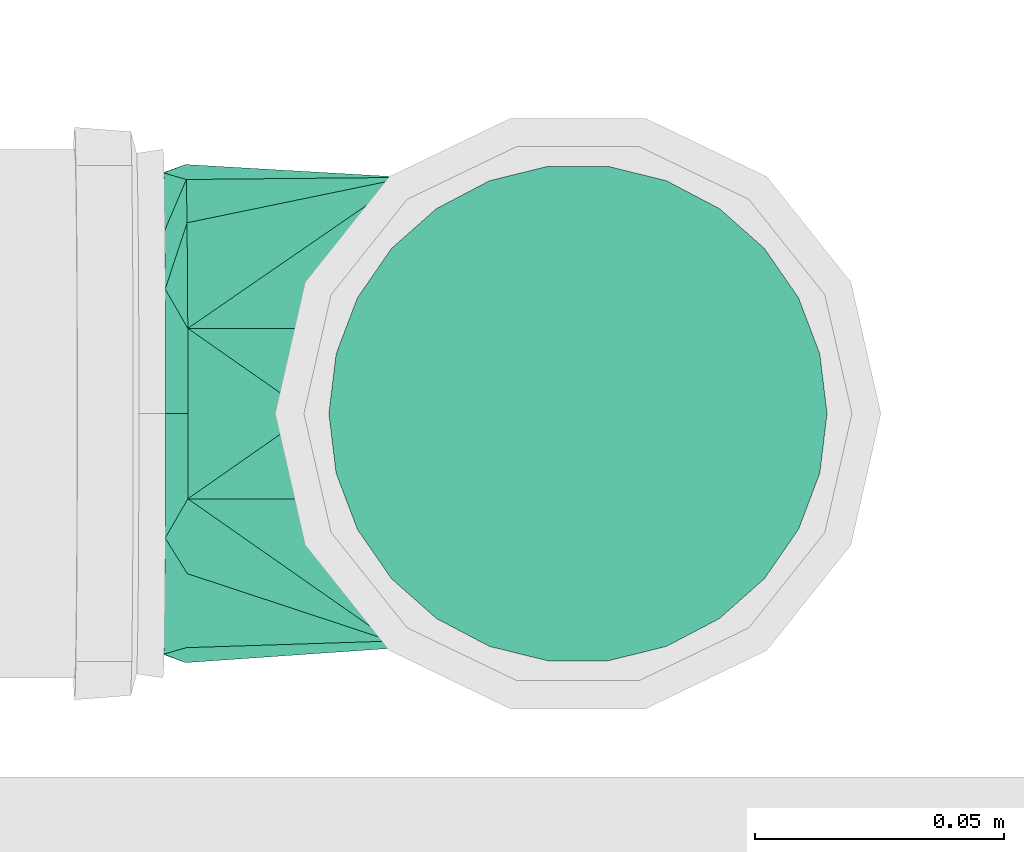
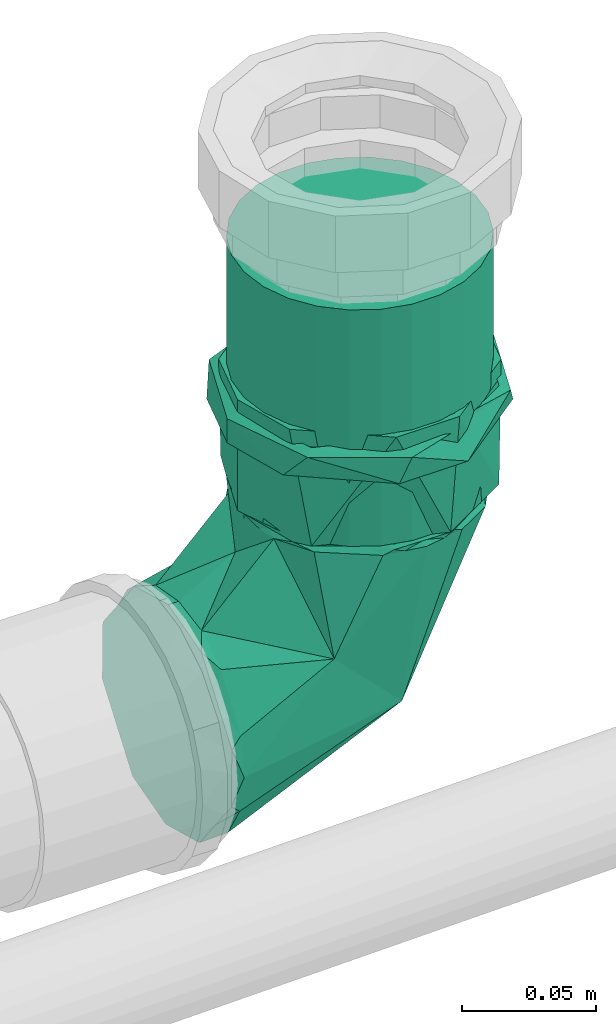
# One storey, part 243 of 589: 1 flow fitting, 1 flow segment.
"""IFC2X3 building model written with IfcOpenShell, lengths in millimetres."""

import ifcopenshell
import ifcopenshell.guid

model = None  # the IFC model being written
_history = None  # IfcOwnerHistory: only IFC2X3 demands one
_inside = {}  # id of a spatial element -> (the spatial element, [elements in it])
_under = {}  # id of a project, library or spatial element -> (it, [spatial elements below it])
_declared = {}  # id of a project -> (the project, [libraries it declares])
_typed = {}  # id of a type object -> (the type object, [elements of that type])
_made_of = {}  # id of a material, layer set ... -> (it, [elements and type objects made of it])


def new_model(schema):
    """Start an empty IFC model of exactly this schema.

    Asked for "IFC4X3", IfcOpenShell would pick the latest addendum, in which some entities
    have other attributes; the version numbers below select the first issue.
    IFC2X3 requires an IfcOwnerHistory on every rooted entity: one is made here for all.
    """
    global model, _history
    if schema == "IFC4X3":
        model = ifcopenshell.file(schema_version=(4, 3, 0, 0))
    else:
        model = ifcopenshell.file(schema=schema)
    _inside.clear()
    _under.clear()
    _declared.clear()
    _typed.clear()
    _made_of.clear()
    _history = None
    if model.schema == "IFC2X3":
        org = make("IfcOrganization", Name="unknown")
        user = make(
            "IfcPersonAndOrganization",
            ThePerson=make("IfcPerson", FamilyName="unknown"),
            TheOrganization=org,
        )
        app = make(
            "IfcApplication",
            ApplicationDeveloper=org,
            Version="unknown",
            ApplicationFullName="unknown",
            ApplicationIdentifier="unknown",
        )
        _history = make(
            "IfcOwnerHistory",
            OwningUser=user,
            OwningApplication=app,
            ChangeAction="ADDED",
            CreationDate=0,
        )
    return model


def make(cls, **values):
    """One entity of the class cls with the attributes given. An attribute that is None is left unset."""
    return model.create_entity(
        cls, **{name: value for name, value in values.items() if value is not None}
    )


def entity(cls, *values):
    """Any entity or typed value of the class cls, its attributes in the order of the schema. None: left unset."""
    e = model.create_entity(cls)
    for i, value in enumerate(values):
        if value is not None:
            e[i] = value
    return e


def rooted(cls, **values):
    """An entity with a GlobalId (a new one), such as an element, a storey or a relation."""
    return make(cls, GlobalId=ifcopenshell.guid.new(), OwnerHistory=_history, **values)


def si_unit(unit_type, name, prefix=None):
    """IfcSIUnit, for example si_unit("LENGTHUNIT", "METRE", prefix="MILLI")."""
    return make("IfcSIUnit", UnitType=unit_type, Prefix=prefix, Name=name)


def converted_unit(unit_type, name, factor, base, dimensions=None, offset=None):
    """IfcConversionBasedUnit, such as the inch: factor (a typed value) times the base unit."""
    return make(
        "IfcConversionBasedUnit"
        if offset is None
        else "IfcConversionBasedUnitWithOffset",
        ConversionOffset=offset,
        Dimensions=None
        if dimensions is None
        else entity("IfcDimensionalExponents", *dimensions),
        UnitType=unit_type,
        Name=name,
        ConversionFactor=make(
            "IfcMeasureWithUnit", ValueComponent=factor, UnitComponent=base
        ),
    )


def derived_unit(unit_type, elements):
    """IfcDerivedUnit: a product of units, each with its exponent."""
    return make(
        "IfcDerivedUnit",
        Elements=[
            make("IfcDerivedUnitElement", Unit=unit, Exponent=power)
            for unit, power in elements
        ],
        UnitType=unit_type,
    )


def assignment(units):
    """IfcUnitAssignment: the units of a project."""
    return None if units is None else make("IfcUnitAssignment", Units=units)


def point(xyz):
    """IfcCartesianPoint."""
    return None if xyz is None else make("IfcCartesianPoint", Coordinates=xyz)


def direction(xyz):
    """IfcDirection."""
    return None if xyz is None else make("IfcDirection", DirectionRatios=xyz)


def frame(location, z_axis=None, x_axis=None):
    """IfcAxis2Placement3D, a coordinate frame: its origin and axes. An axis left out is left unset."""
    return make(
        "IfcAxis2Placement3D",
        Location=point(location),
        Axis=direction(z_axis),
        RefDirection=direction(x_axis),
    )


def frame_2d(location, x_axis=None):
    """IfcAxis2Placement2D, a coordinate frame in the plane: its origin and x axis."""
    return make(
        "IfcAxis2Placement2D", Location=point(location), RefDirection=direction(x_axis)
    )


def origin():
    """The frame at (0, 0, 0) with its axes left unset."""
    return frame((0.0, 0.0, 0.0))


def place(relative_to, where):
    """IfcLocalPlacement: puts the frame where relative to a parent placement (None: the world)."""
    return make(
        "IfcLocalPlacement", PlacementRelTo=relative_to, RelativePlacement=where
    )


def context(
    kind, dimensions, precision=None, world=None, true_north=None, identifier=None
):
    """IfcGeometricRepresentationContext, for example the 3D "Model" context."""
    return make(
        "IfcGeometricRepresentationContext",
        ContextIdentifier=identifier,
        ContextType=kind,
        CoordinateSpaceDimension=dimensions,
        Precision=precision,
        WorldCoordinateSystem=world,
        TrueNorth=true_north,
    )


def subcontext(parent, identifier, kind, view, scale=None):
    """IfcGeometricRepresentationSubContext, for example "Body" below "Model"."""
    return make(
        "IfcGeometricRepresentationSubContext",
        ContextIdentifier=identifier,
        ContextType=kind,
        ParentContext=parent,
        TargetScale=scale,
        TargetView=view,
    )


def project(units=None, contexts=None):
    """IfcProject with its units and contexts."""
    return rooted(
        "IfcProject",
        Name="project",
        RepresentationContexts=contexts,
        UnitsInContext=assignment(units),
    )


def spatial(cls, under=None, at=None, **own):
    """A site, building, storey or space (cls), placed at a placement, below another one or the project."""
    s = rooted(cls, ObjectPlacement=at, **own)
    if under is not None:
        _under.setdefault(under.id(), (under, []))[1].append(s)
    return s


def profile(cls, at=None, kind="AREA", **sizes):
    """A parametric profile (cls). Its sizes go by their IFC names, for example OverallWidth=200.0."""
    return make(cls, ProfileType=kind, Position=at, **sizes)


def circle(**sizes):
    """IfcCircleProfileDef."""
    return profile("IfcCircleProfileDef", **sizes)


def extrude(swept, where, along, depth):
    """IfcExtrudedAreaSolid: the profile swept, set in the frame where, extruded along a direction by depth."""
    return make(
        "IfcExtrudedAreaSolid",
        SweptArea=swept,
        Position=where,
        ExtrudedDirection=direction(along),
        Depth=depth,
    )


def faces_of(points, faces, orient=None, outer=None):
    """IfcFace entities. A face is a list of loops; a loop is a list of indices into points, from 0.

    orient and outer hold one flag for each loop. By default every Orientation is true, the
    first loop of a face is its IfcFaceOuterBound and the others are IfcFaceBound.
    """
    made = []
    for i, loops in enumerate(faces):
        bounds = []
        for j, loop in enumerate(loops):
            is_outer = j == 0 if outer is None else outer[i][j]
            bounds.append(
                make(
                    "IfcFaceOuterBound" if is_outer else "IfcFaceBound",
                    Bound=make("IfcPolyLoop", Polygon=[points[k] for k in loop]),
                    Orientation=True if orient is None else orient[i][j],
                )
            )
        made.append(make("IfcFace", Bounds=bounds))
    return made


def faceted_brep(points, faces, orient=None, outer=None, voids=None):
    """IfcFacetedBrep: a solid bounded by flat faces; with voids (closed shells), ...WithVoids."""
    shared = [point(p) for p in points]
    hull = make("IfcClosedShell", CfsFaces=faces_of(shared, faces, orient, outer))
    if voids is None:
        return make("IfcFacetedBrep", Outer=hull)
    return make(
        "IfcFacetedBrepWithVoids",
        Outer=hull,
        Voids=[
            make(cls, CfsFaces=faces_of(shared, fs, o, b)) for cls, fs, o, b in voids
        ],
    )


def shape(context_of_items, identifier, shape_type, items):
    """IfcShapeRepresentation: the items that make up one representation, for example the "Body"."""
    return make(
        "IfcShapeRepresentation",
        ContextOfItems=context_of_items,
        RepresentationIdentifier=identifier,
        RepresentationType=shape_type,
        Items=items,
    )


def source(mapping_origin, context_of_items, identifier, shape_type, items):
    """IfcRepresentationMap: a shape defined once, which mapped items show again and again."""
    return make(
        "IfcRepresentationMap",
        MappingOrigin=mapping_origin,
        MappedRepresentation=shape(context_of_items, identifier, shape_type, items),
    )


def transform(
    local_origin,
    x_axis=None,
    y_axis=None,
    z_axis=None,
    scale=None,
    scale2=None,
    scale3=None,
    uniform=True,
):
    """IfcCartesianTransformationOperator3D, or its non-uniform kind. x_axis, y_axis, z_axis: its Axis1, 2, 3."""
    if uniform:
        return make(
            "IfcCartesianTransformationOperator3D",
            Axis1=direction(x_axis),
            Axis2=direction(y_axis),
            LocalOrigin=point(local_origin),
            Scale=scale,
            Axis3=direction(z_axis),
        )
    return make(
        "IfcCartesianTransformationOperator3DnonUniform",
        Axis1=direction(x_axis),
        Axis2=direction(y_axis),
        LocalOrigin=point(local_origin),
        Scale=scale,
        Axis3=direction(z_axis),
        Scale2=scale2,
        Scale3=scale3,
    )


def mapped(mapping_source, mapping_target):
    """IfcMappedItem: shows the shape of a source again, moved by a transform."""
    return make(
        "IfcMappedItem", MappingSource=mapping_source, MappingTarget=mapping_target
    )


def material(Name=None, Category=None):
    """IfcMaterial."""
    return make("IfcMaterial", Name=Name, Category=Category)


def made_of(thing, what):
    """Note that an element or type object is made of a material, layer set ...; save() writes the relation."""
    if what is not None:
        _made_of.setdefault(what.id(), (what, []))[1].append(thing)
    return thing


def type_object(cls, material=None, **own):
    """A type object (cls), such as IfcWallType, which elements share."""
    return made_of(rooted(cls, **own), material)


def type_shapes(of_type, sources):
    """Give a type object the sources (RepresentationMaps) that its elements show as mapped items."""
    of_type.RepresentationMaps = sources


def element(
    cls,
    number,
    at=None,
    inside=None,
    cuts=None,
    type_object=None,
    material=None,
    context=None,
    identifier="Body",
    shape_type=None,
    held_by="IfcProductDefinitionShape",
    body=None,
    shapes=None,
    **own,
):
    """One element of the class cls, such as IfcWall. Its Tag is "e" and its number.

    at: its placement. inside: the storey or other place that contains it. cuts: it is an
    opening in that element (IfcRelVoidsElement). A single representation is given by context,
    identifier, shape_type and body (its items); several are given by shapes. held_by: the class
    of the entity that holds the representations. save() writes the other relations.
    """
    e = rooted(cls, Tag="e%d" % number, ObjectPlacement=at, **own)
    if body is not None:
        shapes = [shape(context, identifier, shape_type, body)]
    if shapes is not None:
        e.Representation = make(held_by, Representations=shapes)
    if inside is not None:
        _inside.setdefault(inside.id(), (inside, []))[1].append(e)
    if cuts is not None:
        rooted(
            "IfcRelVoidsElement", RelatingBuildingElement=cuts, RelatedOpeningElement=e
        )
    if type_object is not None:
        _typed.setdefault(type_object.id(), (type_object, []))[1].append(e)
    return made_of(e, material)


def aggregate(whole, parts):
    """IfcRelAggregates: a whole, such as a stair, and the parts it consists of."""
    return rooted("IfcRelAggregates", RelatingObject=whole, RelatedObjects=parts)


def save(model, path):
    """Write the relations noted so far, then the file.

    IfcRelAggregates (storeys below a building ...), IfcRelContainedInSpatialStructure (elements
    in a storey), IfcRelDefinesByType, IfcRelAssociatesMaterial and IfcRelDeclares: one each for
    every whole, place, type object, material and project.
    """
    for whole, parts in _under.values():
        aggregate(whole, parts)
    for where, things in _inside.values():
        rooted(
            "IfcRelContainedInSpatialStructure",
            RelatedElements=things,
            RelatingStructure=where,
        )
    for kind, things in _typed.values():
        rooted("IfcRelDefinesByType", RelatedObjects=things, RelatingType=kind)
    for what, things in _made_of.values():
        rooted("IfcRelAssociatesMaterial", RelatedObjects=things, RelatingMaterial=what)
    for by, libraries in _declared.values():
        rooted("IfcRelDeclares", RelatingContext=by, RelatedDefinitions=libraries)
    model.write(path)


model = new_model("IFC2X3")

# Units and contexts
model_context = context("Model", 3, precision=0.01, world=origin(), true_north=direction((6.123031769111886e-17, 1.0)))
body_context = subcontext(model_context, "Body", "Model", "MODEL_VIEW")
ifc_project = project(units=[si_unit("LENGTHUNIT", "METRE", prefix="MILLI"), si_unit("AREAUNIT", "SQUARE_METRE"), si_unit("VOLUMEUNIT", "CUBIC_METRE"), converted_unit("PLANEANGLEUNIT", "DEGREE", entity("IfcRatioMeasure", 0.017453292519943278), si_unit("PLANEANGLEUNIT", "RADIAN"), dimensions=[0, 0, 0, 0, 0, 0, 0]), si_unit("MASSUNIT", "GRAM", prefix="KILO"), derived_unit("MASSDENSITYUNIT", [(si_unit("MASSUNIT", "GRAM", prefix="KILO"), 1), (si_unit("LENGTHUNIT", "METRE"), -3)]), derived_unit("IONCONCENTRATIONUNIT", [(si_unit("MASSUNIT", "GRAM", prefix="KILO"), 1), (si_unit("LENGTHUNIT", "METRE"), -3)]), derived_unit("MOMENTOFINERTIAUNIT", [(si_unit("LENGTHUNIT", "METRE"), 4)]), si_unit("TIMEUNIT", "SECOND"), si_unit("FREQUENCYUNIT", "HERTZ"), si_unit("THERMODYNAMICTEMPERATUREUNIT", "DEGREE_CELSIUS"), derived_unit("THERMALTRANSMITTANCEUNIT", [(si_unit("MASSUNIT", "GRAM", prefix="KILO"), 1), (si_unit("THERMODYNAMICTEMPERATUREUNIT", "KELVIN"), -1), (si_unit("TIMEUNIT", "SECOND"), -3)]), derived_unit("THERMALCONDUCTANCEUNIT", [(si_unit("MASSUNIT", "GRAM", prefix="KILO"), 1), (si_unit("THERMODYNAMICTEMPERATUREUNIT", "KELVIN"), -1), (si_unit("TIMEUNIT", "SECOND"), -3), (si_unit("LENGTHUNIT", "METRE"), 1)]), derived_unit("VOLUMETRICFLOWRATEUNIT", [(si_unit("LENGTHUNIT", "METRE"), 3), (si_unit("TIMEUNIT", "SECOND"), -1)]), derived_unit("MASSFLOWRATEUNIT", [(si_unit("MASSUNIT", "GRAM", prefix="KILO"), 1), (si_unit("TIMEUNIT", "SECOND"), -1)]), derived_unit("ROTATIONALFREQUENCYUNIT", [(si_unit("TIMEUNIT", "SECOND"), -1)]), si_unit("ELECTRICCURRENTUNIT", "AMPERE"), si_unit("ELECTRICVOLTAGEUNIT", "VOLT"), si_unit("POWERUNIT", "WATT"), si_unit("FORCEUNIT", "NEWTON", prefix="KILO"), si_unit("ILLUMINANCEUNIT", "LUX"), si_unit("LUMINOUSFLUXUNIT", "LUMEN"), si_unit("LUMINOUSINTENSITYUNIT", "CANDELA"), derived_unit("USERDEFINED", [(si_unit("MASSUNIT", "GRAM", prefix="KILO"), -1), (si_unit("LENGTHUNIT", "METRE"), -2), (si_unit("TIMEUNIT", "SECOND"), 3), (si_unit("LUMINOUSFLUXUNIT", "LUMEN"), 1)]), derived_unit("USERDEFINED", [(si_unit("MASSUNIT", "GRAM", prefix="KILO"), 1), (si_unit("TIMEUNIT", "SECOND"), -3), (si_unit("LENGTHUNIT", "METRE"), 3), (si_unit("ELECTRICCURRENTUNIT", "AMPERE"), -2)]), derived_unit("SOUNDPOWERUNIT", [(si_unit("MASSUNIT", "GRAM", prefix="KILO"), 1), (si_unit("TIMEUNIT", "SECOND"), -3), (si_unit("LENGTHUNIT", "METRE"), 2)]), derived_unit("SOUNDPRESSUREUNIT", [(si_unit("MASSUNIT", "GRAM", prefix="KILO"), 1), (si_unit("LENGTHUNIT", "METRE"), -1), (si_unit("TIMEUNIT", "SECOND"), -2)]), derived_unit("LINEARVELOCITYUNIT", [(si_unit("LENGTHUNIT", "METRE"), 1), (si_unit("TIMEUNIT", "SECOND"), -1)]), si_unit("PRESSUREUNIT", "PASCAL"), derived_unit("USERDEFINED", [(si_unit("MASSUNIT", "GRAM", prefix="KILO"), 1), (si_unit("LENGTHUNIT", "METRE"), -2), (si_unit("TIMEUNIT", "SECOND"), -2)]), derived_unit("LINEARFORCEUNIT", [(si_unit("MASSUNIT", "GRAM", prefix="KILO"), 1), (si_unit("TIMEUNIT", "SECOND"), -2)]), derived_unit("PLANARFORCEUNIT", [(si_unit("MASSUNIT", "GRAM", prefix="KILO"), 1), (si_unit("LENGTHUNIT", "METRE"), -1), (si_unit("TIMEUNIT", "SECOND"), -2)]), derived_unit("SPECIFICHEATCAPACITYUNIT", [(si_unit("THERMODYNAMICTEMPERATUREUNIT", "KELVIN"), -1), (si_unit("LENGTHUNIT", "METRE"), 2), (si_unit("TIMEUNIT", "SECOND"), -2)]), derived_unit("HEATINGVALUEUNIT", [(si_unit("LENGTHUNIT", "METRE"), 2), (si_unit("TIMEUNIT", "SECOND"), -2)]), derived_unit("VAPORPERMEABILITYUNIT", [(si_unit("LENGTHUNIT", "METRE"), -1), (si_unit("TIMEUNIT", "SECOND"), 1)]), derived_unit("DYNAMICVISCOSITYUNIT", [(si_unit("MASSUNIT", "GRAM", prefix="KILO"), 1), (si_unit("TIMEUNIT", "SECOND"), -1), (si_unit("LENGTHUNIT", "METRE"), -1)]), derived_unit("THERMALEXPANSIONCOEFFICIENTUNIT", [(si_unit("THERMODYNAMICTEMPERATUREUNIT", "KELVIN"), -1)]), derived_unit("MODULUSOFELASTICITYUNIT", [(si_unit("MASSUNIT", "GRAM", prefix="KILO"), 1), (si_unit("LENGTHUNIT", "METRE"), -1), (si_unit("TIMEUNIT", "SECOND"), -2)]), derived_unit("ISOTHERMALMOISTURECAPACITYUNIT", [(si_unit("LENGTHUNIT", "METRE"), 3), (si_unit("MASSUNIT", "GRAM", prefix="KILO"), -1)]), derived_unit("MOISTUREDIFFUSIVITYUNIT", [(si_unit("TIMEUNIT", "SECOND"), -1), (si_unit("LENGTHUNIT", "METRE"), 2)])], contexts=[model_context])

# Site, building, storey
site_placement = place(None, origin())
site = spatial("IfcSite", under=ifc_project, at=site_placement, Name="Default", CompositionType="ELEMENT")
building_placement = place(site_placement, origin())
building = spatial("IfcBuilding", under=site, at=building_placement, CompositionType="ELEMENT")
storey_placement = place(building_placement, frame((0.0, 0.0, 100.0)))
storey = spatial("IfcBuildingStorey", under=building, at=storey_placement, Name="TÉRREO", CompositionType="ELEMENT", Elevation=100.0)

# Flow segment
pipe_segment_type = type_object("IfcPipeSegmentType", Name="Tipos de tubos:PVC Esgoto Série Normal", PredefinedType="NOTDEFINED")
flow_segment_placement = place(storey_placement, origin())
element("IfcFlowSegment", 1, at=flow_segment_placement, inside=storey, type_object=pipe_segment_type, Name="Tipos de tubos:PVC Esgoto Série Normal", ObjectType="Tipos de tubos:PVC Esgoto Série Normal", context=body_context, shape_type="SweptSolid", body=[
    extrude(circle(Radius=50.0, at=frame_2d((3.383959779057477e-14, -5.414335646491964e-13), x_axis=(1.0, 0.0))), frame((-87.78535366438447, 3453.5703177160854, -157.99341101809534)), (0.0, 0.0, 1.0), 107.9934110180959),
])

# Flow fitting
ifc_material = material(Name="PVC Branco")
pipe_fitting_type = type_object("IfcPipeFittingType", Name="PVC Esgoto_Curva 90° Curta:a. Série Normal", PredefinedType="NOTDEFINED", material=ifc_material)
shared_shape = source(origin(), body_context, "Body", "Brep", [
    faceted_brep([(-13.77310261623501, 83.150332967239, 48.29629131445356), (12.107507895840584, 83.40913907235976, 48.296291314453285), (27.28690791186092, 83.56093307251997, 36.64814565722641), (42.466307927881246, 83.71272707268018, 25.0), (49.16470282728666, 83.77971102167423, 0.0), (42.46630792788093, 83.71272707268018, -25.0), (27.286907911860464, 83.56093307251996, -36.64814565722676), (12.107507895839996, 83.40913907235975, -48.29629131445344), (-13.773102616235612, 83.150332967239, -48.2962913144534), (-28.95250263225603, 82.99853896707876, -36.64814565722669), (-44.131902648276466, 82.84674496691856, -25.0), (-50.83029754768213, 82.7797610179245, 0.0), (-44.131902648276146, 82.84674496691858, 25.0), (-28.952502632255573, 82.99853896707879, 36.64814565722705), (46.19447148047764, 79.24978371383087, 17.1010370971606), (16.31224781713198, 78.9509614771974, 46.9846691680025), (-17.887847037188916, 78.60896052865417, 46.98466916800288), (49.209700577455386, 79.27993600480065, 0.0), (37.5124666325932, 79.16296366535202, 32.139429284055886), (-32.92551224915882, 78.45858387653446, 38.30227334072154), (-0.7877996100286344, 78.77996100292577, 50.0), (-47.77007070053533, 78.31013829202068, 17.10103709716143), (-50.78529979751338, 78.2799860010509, 0.0), (-47.77007070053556, 78.31013829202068, -17.10103709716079), (-17.88784703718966, 78.60896052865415, -46.98466916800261), (16.312247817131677, 78.9509614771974, -46.98466916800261), (-39.08806585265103, 78.39695834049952, -32.1394292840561), (31.34991302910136, 79.1013381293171, -38.302273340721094), (-0.7877996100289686, 78.77996100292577, -50.0), (46.194471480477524, 79.24978371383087, -17.10103709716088), (-7.975140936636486, 7.895786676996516, 45.073651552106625), (-78.78389990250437, -17.100902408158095, 46.98466916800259), (-78.7838999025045, -27.701541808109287, 39.562049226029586), (-78.78389990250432, -38.302181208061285, 32.139429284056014), (-14.414764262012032, -32.63731005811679, 0.0), (-78.78389990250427, -46.984620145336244, 17.101037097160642), (-78.78389990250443, -48.49231007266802, 8.55051854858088), (-78.78389990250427, -50.0, 0.0), (-78.78389990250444, -42.64340067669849, 24.620233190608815), (-78.78389990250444, 0.0, 50.0), (-78.78389990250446, -8.550451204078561, 48.492334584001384), (32.49153787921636, 14.740400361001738, 0.0), (-34.6369786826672, 34.29234046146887, 47.412359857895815), (-78.78389990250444, 17.100902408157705, 46.98466916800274), (-78.78389990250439, 8.550451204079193, 48.49233458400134), (-78.78389990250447, 32.13931948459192, 38.302273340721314), (-78.78389990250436, 24.620110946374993, 42.64347125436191), (-78.78389990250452, 46.98462014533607, 17.101037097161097), (-78.78389990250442, 39.56196981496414, 27.701655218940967), (-64.70315148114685, 53.79808842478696, 0.0), (-78.78389990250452, 50.0, 0.0), (-78.78389990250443, 48.492310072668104, 8.550518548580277), (-37.82579928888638, 37.449427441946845, -45.66519222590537), (-78.78389990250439, 0.0, -50.0), (-78.78389990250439, 8.55045120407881, -48.49233458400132), (-78.78389990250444, 17.10090240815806, -46.984669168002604), (-7.975138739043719, 7.895784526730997, -45.07365007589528), (-78.78389990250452, 46.98462014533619, -17.101037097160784), (-78.78389990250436, 27.701541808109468, -39.562049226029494), (-78.7838999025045, 38.30218120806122, -32.139429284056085), (-78.78389990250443, -48.492310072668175, -8.550518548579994), (-78.78389990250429, -46.984620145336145, -17.1010370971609), (-78.78389990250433, -32.13931948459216, -38.302273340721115), (-78.7838999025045, -24.620110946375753, -42.6434712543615), (-78.78389990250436, -17.100902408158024, -46.98466916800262), (-78.78389990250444, -39.56196981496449, -27.70165521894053), (-78.78389990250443, 48.49231007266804, -8.550518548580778), (-78.78389990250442, 42.64340067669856, -24.620233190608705), (-78.78389990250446, -8.550451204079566, -48.49233458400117), (-80.78389990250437, 50.0, 0.0), (-80.78389990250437, 46.65063509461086, -12.500000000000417), (-80.78389990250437, 43.30127018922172, -25.0), (-80.78389990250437, 35.711190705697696, -30.82407282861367), (-80.78389990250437, 28.121111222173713, -36.64814565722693), (-80.78389990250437, 20.53103173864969, -42.47221848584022), (-80.78389990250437, 12.940952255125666, -48.29629131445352), (-80.78389990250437, 0.0, -48.29629131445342), (-80.78389990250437, -12.940952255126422, -48.29629131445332), (-80.78389990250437, -20.531031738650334, -42.47221848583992), (-80.78389990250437, -28.121111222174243, -36.64814565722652), (-80.78389990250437, -35.7111907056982, -30.824072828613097), (-80.78389990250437, -43.30127018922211, -25.0), (-80.78389990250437, -46.650635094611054, -12.499999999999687), (-80.78389990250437, -50.0, 0.0), (-80.78389990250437, -46.65063509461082, 12.500000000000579), (-80.78389990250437, -43.30127018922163, 25.0), (-80.78389990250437, -35.71119070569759, 30.82407282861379), (-80.78389990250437, -28.12111122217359, 36.648145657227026), (-80.78389990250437, -20.531031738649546, 42.47221848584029), (-80.78389990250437, -12.940952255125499, 48.29629131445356), (-80.78389990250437, 0.0, 48.29629131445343), (-80.78389990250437, 12.940952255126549, 48.296291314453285), (-80.78389990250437, 20.531031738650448, 42.47221848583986), (-80.78389990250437, 28.121111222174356, 36.648145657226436), (-80.78389990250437, 35.711190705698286, 30.824072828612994), (-80.78389990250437, 43.30127018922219, 25.0), (-80.78389990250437, 46.65063509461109, 12.499999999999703)], [[[0, 1, 2, 3, 4, 5, 6, 7, 8, 9, 10, 11, 12, 13]], [[14, 4, 3]], [[1, 15, 2]], [[13, 16, 0]], [[17, 4, 14]], [[18, 14, 3]], [[2, 15, 18]], [[13, 12, 19]], [[1, 20, 15]], [[18, 3, 2]], [[12, 21, 19]], [[12, 11, 21]], [[22, 21, 11]], [[20, 0, 16]], [[16, 13, 19]], [[0, 20, 1]], [[23, 11, 10]], [[8, 24, 9]], [[6, 25, 7]], [[22, 11, 23]], [[26, 23, 10]], [[9, 24, 26]], [[6, 5, 27]], [[8, 28, 24]], [[26, 10, 9]], [[5, 29, 27]], [[5, 4, 29]], [[17, 29, 4]], [[28, 7, 25]], [[25, 6, 27]], [[7, 28, 8]], [[30, 31, 32, 33]], [[34, 35, 36, 37]], [[34, 30, 33]], [[34, 33, 38, 35]], [[30, 39, 40, 31]], [[41, 30, 34]], [[42, 43, 44, 39]], [[20, 42, 30]], [[30, 42, 39]], [[42, 45, 46, 43]], [[42, 47, 48, 45]], [[49, 50, 51, 47]], [[20, 30, 15]], [[20, 16, 42]], [[30, 18, 15]], [[14, 18, 41]], [[17, 14, 41]], [[49, 21, 22]], [[49, 47, 21]], [[47, 42, 21]], [[42, 19, 21]], [[42, 16, 19]], [[30, 41, 18]], [[52, 53, 54, 55]], [[34, 56, 41]], [[52, 24, 28]], [[52, 57, 23]], [[52, 55, 58, 59]], [[56, 53, 52]], [[34, 37, 60, 61]], [[56, 62, 63, 64]], [[62, 56, 34]], [[34, 61, 65, 62]], [[49, 57, 66, 50]], [[49, 22, 23]], [[27, 56, 25]], [[52, 59, 67, 57]], [[52, 26, 24]], [[52, 23, 26]], [[52, 28, 56]], [[56, 64, 68, 53]], [[28, 25, 56]], [[56, 27, 41]], [[29, 17, 41]], [[29, 41, 27]], [[49, 23, 57]], [[69, 70, 71, 72, 73, 74, 75, 76, 77, 78, 79, 80, 81, 82, 83, 84, 85, 86, 87, 88, 89, 90, 91, 92, 93, 94, 95, 96]], [[51, 50, 69]], [[31, 89, 88]], [[92, 43, 46]], [[46, 45, 93]], [[31, 88, 32]], [[93, 92, 46]], [[96, 95, 47]], [[94, 93, 45]], [[85, 84, 35]], [[69, 96, 51]], [[90, 44, 91]], [[89, 40, 90]], [[33, 87, 86, 85]], [[85, 35, 38, 33]], [[89, 31, 40]], [[83, 36, 84]], [[45, 48, 94]], [[40, 39, 90]], [[44, 43, 91]], [[32, 88, 87]], [[48, 47, 95]], [[87, 33, 32]], [[44, 90, 39]], [[96, 47, 51]], [[92, 91, 43]], [[48, 95, 94]], [[36, 83, 37]], [[36, 35, 84]], [[60, 37, 83]], [[55, 75, 74]], [[78, 64, 63]], [[63, 62, 79]], [[55, 74, 58]], [[79, 78, 63]], [[82, 81, 61]], [[80, 79, 62]], [[71, 70, 57]], [[83, 82, 60]], [[76, 68, 77]], [[75, 54, 76]], [[59, 73, 72, 71]], [[71, 57, 67, 59]], [[75, 55, 54]], [[69, 66, 70]], [[62, 65, 80]], [[54, 53, 76]], [[68, 64, 77]], [[58, 74, 73]], [[65, 61, 81]], [[73, 59, 58]], [[68, 76, 53]], [[82, 61, 60]], [[78, 77, 64]], [[65, 81, 80]], [[66, 69, 50]], [[66, 57, 70]]]),
    faceted_brep([(-115.78389990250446, 13.678586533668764, -51.04917991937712), (-115.78389990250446, -13.678586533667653, -51.04917991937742), (-115.78389990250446, -14.83033128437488, -55.3475498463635), (-115.78389990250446, 14.830331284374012, -55.347549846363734), (-115.78389990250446, 45.76944259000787, -26.42499999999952), (-115.78389990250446, -49.62325563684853, -28.64999999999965), (-115.78389990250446, -45.769442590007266, -26.425000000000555), (-115.78389990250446, -52.85000000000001, 0.0), (-115.78389990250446, -57.300000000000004, 0.0), (-115.78389990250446, -45.76944259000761, 26.424999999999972), (-115.78389990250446, -49.62325563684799, 28.6500000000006), (-115.78389990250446, -13.67858653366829, 51.04917991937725), (-115.78389990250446, -14.830331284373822, 55.34754984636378), (-115.78389990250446, 13.678586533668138, 51.049179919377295), (-115.78389990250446, 14.830331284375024, 55.34754984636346), (-115.78389990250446, 45.76944259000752, 26.42500000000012), (-115.78389990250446, 49.62325563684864, 28.64999999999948), (-115.78389990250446, 57.300000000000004, 0.0), (-115.78389990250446, 52.85000000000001, 0.0), (-115.78389990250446, 49.62325563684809, -28.65000000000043), (-126.78389990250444, 57.300000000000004, 0.0), (-126.78389990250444, 50.59641416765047, 18.416769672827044), (-126.78389990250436, 43.89282833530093, 36.833539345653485), (-126.78389990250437, 16.96848634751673, 46.63099896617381), (-126.78389990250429, -9.955855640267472, 56.42845858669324), (-126.78389990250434, -26.927757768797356, 46.62692777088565), (-126.78389990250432, -43.89965989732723, 36.82539695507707), (-126.78389990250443, -51.65442122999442, 15.514582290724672), (-126.78389990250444, -57.300000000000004, 0.0), (-126.78389990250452, -51.654421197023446, -15.514582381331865), (-126.78389990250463, -43.89965989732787, -36.825396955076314), (-126.78389990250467, -16.97713572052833, -46.627850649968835), (-126.7838999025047, 9.945388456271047, -56.43030434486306), (-126.78389990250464, 26.91910839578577, -46.63192184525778), (-126.7838999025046, 43.89282833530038, -36.83353934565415), (-126.78389990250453, 50.59641416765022, -18.416769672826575), (-126.78389990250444, 52.85000000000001, 0.0), (-128.2838999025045, 52.85000000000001, 0.0), (-126.78389990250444, 51.07986064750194, -6.606250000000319), (-126.78389990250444, 49.309721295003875, -13.212500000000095), (-126.78389990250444, 47.53958194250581, -19.818749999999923), (-126.78389990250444, 45.769442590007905, -26.42499999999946), (-126.78389990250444, 37.74672857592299, -32.581044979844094), (-126.78389990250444, 29.72401456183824, -38.73708995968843), (-126.78389990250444, 21.70130054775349, -44.89313493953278), (-126.78389990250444, 13.678586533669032, -51.049179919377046), (-126.78389990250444, 6.83929326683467, -51.0491799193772), (-126.78389990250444, 0.0, -51.04917991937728), (-126.78389990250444, -6.839293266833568, -51.049179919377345), (-126.78389990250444, -13.678586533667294, -51.049179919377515), (-126.78389990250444, -21.70130054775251, -44.89313493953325), (-126.78389990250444, -29.724014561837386, -38.73708995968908), (-126.78389990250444, -37.74672857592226, -32.581044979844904), (-126.78389990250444, -45.76944259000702, -26.425000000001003), (-126.78389990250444, -47.53958194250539, -19.818750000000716), (-126.78389990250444, -49.3097212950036, -13.212500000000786), (-126.78389990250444, -51.0798606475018, -6.606250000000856), (-128.2838999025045, -52.85000000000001, 0.0), (-126.78389990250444, -52.85000000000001, 0.0), (-126.78389990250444, -51.07986064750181, 6.606250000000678), (-126.78389990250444, -49.30972129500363, 13.212500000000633), (-126.78389990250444, -47.53958194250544, 19.81875000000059), (-126.78389990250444, -45.769442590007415, 26.425000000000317), (-126.78389990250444, -37.74672857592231, 32.58104497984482), (-126.78389990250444, -29.724014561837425, 38.73708995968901), (-126.78389990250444, -21.70130054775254, 44.893134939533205), (-126.78389990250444, -17.689943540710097, 47.9711574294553), (-126.78389990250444, -13.67858653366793, 51.049179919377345), (-126.78389990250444, -6.8392932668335, 51.04917991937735), (-126.78389990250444, 0.0, 51.04917991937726), (-126.78389990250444, 6.839293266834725, 51.04917991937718), (-126.78389990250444, 13.67858653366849, 51.049179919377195), (-126.78389990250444, 21.701300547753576, 44.893134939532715), (-126.78389990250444, 29.724014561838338, 38.73708995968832), (-126.78389990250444, 37.7467285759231, 32.58104497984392), (-126.78389990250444, 45.769442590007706, 26.424999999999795), (-126.78389990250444, 47.539581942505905, 19.818749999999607), (-126.78389990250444, 49.30972129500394, 13.212499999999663), (-126.78389990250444, 51.079860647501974, 6.606249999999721), (-128.28389990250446, -49.75936154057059, 8.49223617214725), (-128.28389990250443, -46.668723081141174, 16.984472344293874), (-128.28389990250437, -21.863819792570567, 40.74836470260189), (-128.28389990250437, -15.655944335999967, 43.00817137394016), (-128.28389990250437, -28.07169524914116, 38.488558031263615), (-128.2838999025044, 40.48487812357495, 33.9720052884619), (-128.2838999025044, 32.6575479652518, 38.490853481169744), (-128.28389990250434, 9.175557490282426, 52.04739805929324), (-128.2838999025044, 24.830217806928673, 43.00970167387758), (-128.28389990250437, 17.002887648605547, 47.528549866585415), (-128.2838999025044, -43.578084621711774, 25.476708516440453), (-128.2838999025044, -40.48744616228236, 33.96894468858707), (-128.2838999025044, -34.27957070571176, 36.22875135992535), (-128.28389990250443, 46.667439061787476, 16.986002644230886), (-128.28389990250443, 43.57615859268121, 25.479003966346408), (-128.28389990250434, 2.967682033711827, 49.78759138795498), (-127.4733463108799, 42.95894728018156, 30.783946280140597), (-128.28389990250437, -9.44806887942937, 45.26797804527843), (-128.2838999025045, 49.75871953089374, 8.49300132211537), (-128.2838999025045, 47.64176169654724, 14.30914316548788), (-128.28389990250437, -3.2401934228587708, 47.5277847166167), (-128.28389990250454, 46.667439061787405, -16.986002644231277), (-128.28389990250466, 3.2366004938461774, -47.52802952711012), (-128.28389990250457, 43.576158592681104, -25.479003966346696), (-128.2838999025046, 40.4848781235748, -33.972005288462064), (-128.2838999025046, 34.27683185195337, -36.231342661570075), (-128.28389990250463, -17.006480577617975, -47.52726437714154), (-128.28389990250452, 49.75871953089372, -8.493001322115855), (-128.28389990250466, -9.179492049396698, -52.04670427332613), (-128.28389990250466, -2.971445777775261, -49.787366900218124), (-128.28389990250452, -46.66872308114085, -16.984472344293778), (-128.28389990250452, -43.578084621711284, -25.476708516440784), (-128.2838999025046, 28.068785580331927, -38.490680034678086), (-128.28389990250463, 21.86073930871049, -40.75001740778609), (-128.28389990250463, 15.652693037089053, -43.00935478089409), (-128.28389990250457, -32.66045763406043, -38.48838458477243), (-128.2838999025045, -49.75936154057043, -8.492236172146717), (-128.28389990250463, 9.444646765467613, -45.268692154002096), (-128.28389990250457, -40.48744616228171, -33.96894468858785), (-128.2838999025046, -24.833469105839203, -43.007824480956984)], [[[0, 1, 2]], [[2, 3, 0]], [[4, 0, 3]], [[5, 2, 1]], [[1, 6, 5]], [[6, 7, 5]], [[8, 5, 7]], [[8, 7, 9]], [[10, 8, 9]], [[9, 11, 10]], [[11, 12, 10]], [[13, 12, 11]], [[12, 13, 14]], [[13, 15, 14]], [[16, 14, 15]], [[16, 15, 17]], [[17, 15, 18]], [[18, 4, 19]], [[17, 18, 19]], [[3, 19, 4]], [[16, 20, 21, 22]], [[20, 16, 17]], [[16, 22, 14]], [[14, 22, 23, 24]], [[12, 24, 25, 26]], [[10, 26, 27, 28]], [[26, 10, 12]], [[10, 28, 8]], [[24, 12, 14]], [[5, 28, 29, 30]], [[28, 5, 8]], [[5, 30, 2]], [[2, 30, 31, 32]], [[3, 32, 33, 34]], [[19, 34, 35, 20]], [[34, 19, 3]], [[19, 20, 17]], [[32, 3, 2]], [[4, 18, 36, 37, 38, 39, 40, 41]], [[0, 4, 41, 42, 43, 44, 45]], [[0, 45, 46, 47, 48, 49, 1]], [[6, 1, 49, 50, 51, 52, 53]], [[7, 6, 53, 54, 55, 56, 57, 58]], [[9, 7, 58, 57, 59, 60, 61, 62]], [[11, 9, 62, 63, 64, 65, 66, 67]], [[11, 67, 68, 69, 70, 71, 13]], [[15, 13, 71, 72, 73, 74, 75]], [[18, 15, 75, 76, 77, 78, 37, 36]], [[79, 80, 60]], [[81, 82, 65, 83]], [[84, 74, 85]], [[73, 85, 74]], [[71, 70, 86]], [[87, 72, 88]], [[89, 90, 62]], [[90, 91, 63]], [[66, 65, 82, 67]], [[92, 76, 93]], [[59, 79, 60]], [[83, 65, 64]], [[61, 89, 62]], [[63, 91, 64]], [[71, 88, 72]], [[86, 70, 94]], [[69, 94, 70]], [[75, 95, 93]], [[96, 67, 82]], [[78, 97, 37]], [[84, 93, 95]], [[77, 92, 98, 97]], [[73, 87, 85]], [[74, 95, 75]], [[95, 74, 84]], [[73, 72, 87]], [[71, 86, 88]], [[63, 62, 90]], [[61, 80, 89]], [[91, 83, 64]], [[75, 93, 76]], [[92, 77, 76]], [[79, 59, 57]], [[61, 60, 80]], [[99, 94, 69]], [[99, 68, 96]], [[78, 77, 97]], [[67, 96, 68]], [[99, 69, 68]], [[40, 39, 100]], [[47, 46, 101]], [[102, 103, 41]], [[43, 42, 104]], [[49, 105, 50]], [[106, 100, 39]], [[42, 103, 104]], [[107, 48, 108]], [[109, 54, 110]], [[106, 38, 37]], [[111, 112, 113, 44]], [[40, 102, 41]], [[42, 41, 103]], [[51, 114, 52]], [[56, 115, 57]], [[113, 116, 45]], [[101, 46, 116]], [[45, 116, 46]], [[44, 43, 111]], [[113, 45, 44]], [[53, 117, 110]], [[55, 109, 115]], [[117, 53, 52]], [[100, 102, 40]], [[118, 50, 105]], [[118, 51, 50]], [[105, 49, 107]], [[53, 110, 54]], [[109, 55, 54]], [[117, 52, 114]], [[51, 118, 114]], [[107, 49, 48]], [[47, 108, 48]], [[56, 55, 115]], [[104, 111, 43]], [[106, 39, 38]], [[47, 101, 108]], [[30, 109, 110, 117]], [[29, 57, 115, 109]], [[107, 32, 31]], [[31, 118, 105, 107]], [[57, 29, 28]], [[30, 117, 114, 118]], [[20, 100, 106, 37]], [[33, 113, 112, 111, 104, 103]], [[30, 118, 31]], [[32, 107, 108, 101, 116, 113]], [[20, 35, 100]], [[30, 29, 109]], [[34, 103, 35]], [[113, 33, 32]], [[34, 33, 103]], [[35, 103, 102, 100]], [[21, 84, 22]], [[20, 98, 21]], [[23, 87, 88, 86]], [[22, 84, 85, 87]], [[20, 37, 97, 98]], [[22, 87, 23]], [[27, 80, 79, 57]], [[24, 86, 94, 99, 96, 82]], [[86, 24, 23]], [[82, 25, 24]], [[26, 90, 89, 80]], [[21, 98, 92, 93, 84]], [[26, 80, 27]], [[90, 26, 25]], [[25, 82, 81, 83, 91, 90]], [[57, 28, 27]]]),
    faceted_brep([(-133.9838999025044, -13.678586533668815, -51.04917991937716), (-133.9838999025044, -12.940952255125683, -48.29629131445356), (-133.9838999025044, 12.940952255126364, -48.29629131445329), (-133.9838999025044, -45.76944259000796, -26.424999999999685), (-133.9838999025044, 13.678586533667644, -51.04917991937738), (-133.9838999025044, -43.301270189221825, -25.0), (-133.9838999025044, -50.0, 0.0), (-133.9838999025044, -52.850000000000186, 0.0), (-133.9838999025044, -43.30127018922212, 25.0), (-133.9838999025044, -45.76944259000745, 26.425000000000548), (-133.9838999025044, -12.940952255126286, 48.29629131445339), (-133.9838999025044, -13.678586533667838, 51.049179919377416), (-133.9838999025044, 12.940952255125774, 48.29629131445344), (-133.9838999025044, 13.678586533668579, 51.04917991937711), (-133.9838999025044, 43.30127018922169, 25.0), (-133.9838999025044, 45.76944259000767, 26.42499999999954), (-133.9838999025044, 52.84999999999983, 0.0), (-133.9838999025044, 50.0, 0.0), (-133.9838999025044, 45.76944259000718, -26.425000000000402), (-133.9838999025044, 43.30127018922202, -25.0), (-83.28389990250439, 52.849999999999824, 0.0), (-83.28389990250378, 40.488967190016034, 33.967131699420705), (-83.28389990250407, 46.66948359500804, 16.983565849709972), (-83.28389990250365, 9.181156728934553, 52.04641064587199), (-83.2838999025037, 24.835061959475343, 43.00677117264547), (-83.283899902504, -40.48444349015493, 33.972523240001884), (-83.28389990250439, -52.85000000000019, 0.0), (-83.28389990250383, -15.651643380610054, 43.00946694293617), (-83.2838999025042, -46.667221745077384, 16.986261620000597), (-83.28389990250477, -40.48444349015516, -33.972523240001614), (-83.28389990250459, -46.6672217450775, -16.98626162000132), (-83.283899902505, -9.174225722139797, -52.04763282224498), (-83.2838999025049, -24.829334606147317, -43.010078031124), (-83.28389990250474, 40.488967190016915, -33.96713169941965), (-83.28389990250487, 15.657370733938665, -43.00738226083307), (-83.28389990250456, 46.6694835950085, -16.98356584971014), (-83.28389990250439, -43.301270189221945, 25.0), (-83.28389990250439, -12.940952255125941, 48.2962913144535), (-83.28389990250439, 12.940952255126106, 48.29629131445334), (-83.28389990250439, 43.30127018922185, 25.0), (-83.28389990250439, 50.0, 0.0), (-83.28389990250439, 43.30127018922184, -25.0), (-83.28389990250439, 12.940952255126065, -48.296291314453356), (-83.28389990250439, -12.940952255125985, -48.29629131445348), (-83.28389990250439, -43.301270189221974, -25.0), (-83.28389990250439, -50.0, 0.0), (-80.78389990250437, 12.940952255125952, 48.29629131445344), (-80.78389990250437, -12.940952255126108, 48.29629131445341), (-80.78389990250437, -28.121111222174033, 36.64814565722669), (-80.78389990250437, -43.30127018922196, 25.0), (-80.78389990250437, -50.0, 0.0), (-80.78389990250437, -43.30127018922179, -25.0), (-80.78389990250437, -28.1211112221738, -36.64814565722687), (-80.78389990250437, -12.94095225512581, -48.29629131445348), (-80.78389990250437, 12.940952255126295, -48.29629131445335), (-80.78389990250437, 28.121111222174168, -36.64814565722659), (-80.78389990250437, 43.301270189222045, -25.0), (-80.78389990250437, 50.0, 0.0), (-80.78389990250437, 43.301270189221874, 25.0), (-80.78389990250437, 28.121111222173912, 36.648145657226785)], [[[0, 1, 2]], [[1, 0, 3]], [[2, 4, 0]], [[3, 5, 1]], [[3, 6, 5]], [[6, 3, 7]], [[8, 6, 7]], [[8, 7, 9]], [[9, 10, 8]], [[9, 11, 10]], [[10, 11, 12]], [[13, 12, 11]], [[13, 14, 12]], [[14, 13, 15]], [[16, 14, 15]], [[17, 14, 16]], [[18, 17, 16]], [[18, 19, 17]], [[19, 18, 4]], [[4, 2, 19]], [[16, 15, 20]], [[15, 21, 22, 20]], [[21, 15, 13]], [[13, 23, 24, 21]], [[25, 11, 9]], [[26, 9, 7]], [[11, 25, 27, 23]], [[9, 26, 28, 25]], [[11, 23, 13]], [[7, 3, 26]], [[3, 29, 30, 26]], [[29, 3, 0]], [[0, 31, 32, 29]], [[33, 4, 18]], [[20, 18, 16]], [[4, 33, 34, 31]], [[18, 20, 35, 33]], [[4, 31, 0]], [[36, 37, 38, 39, 40, 41, 42, 43, 44, 45]], [[46, 47, 48, 49, 50, 51, 52, 53, 54, 55, 56, 57, 58, 59]], [[34, 55, 54]], [[35, 57, 56]], [[35, 20, 57]], [[56, 33, 35]], [[33, 55, 34]], [[32, 31, 53]], [[30, 29, 51]], [[52, 29, 32]], [[33, 56, 55]], [[30, 50, 26]], [[50, 30, 51]], [[54, 31, 34]], [[52, 51, 29]], [[53, 31, 54]], [[53, 52, 32]], [[27, 48, 47]], [[28, 50, 49]], [[28, 26, 50]], [[49, 25, 28]], [[25, 48, 27]], [[24, 23, 46]], [[22, 21, 58]], [[59, 21, 24]], [[25, 49, 48]], [[22, 57, 20]], [[57, 22, 58]], [[47, 23, 27]], [[59, 58, 21]], [[46, 23, 47]], [[46, 59, 24]], [[41, 40, 17, 19]], [[42, 41, 19, 2]], [[2, 1, 43, 42]], [[44, 43, 1, 5]], [[45, 44, 5, 6]], [[36, 45, 6, 8]], [[37, 36, 8, 10]], [[10, 12, 38, 37]], [[39, 38, 12, 14]], [[40, 39, 14, 17]]]),
])
type_shapes(pipe_fitting_type, [shared_shape])
flow_fitting_placement = place(storey_placement, frame((-87.78535366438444, 3453.5703177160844, -241.27731092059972), z_axis=(0.0, 1.0, 0.0), x_axis=(0.0, 0.0, -1.0)))
element("IfcFlowFitting", 2, at=flow_fitting_placement, inside=storey, type_object=pipe_fitting_type, material=ifc_material, Name="PVC Esgoto_Curva 90° Curta:a. Série Normal", ObjectType="PVC Esgoto_Curva 90° Curta:a. Série Normal", context=body_context, shape_type="MappedRepresentation", body=[
    mapped(shared_shape, transform((0.0, 0.0, 0.0), scale=1.0)),
])

save(model, "model.ifc")
